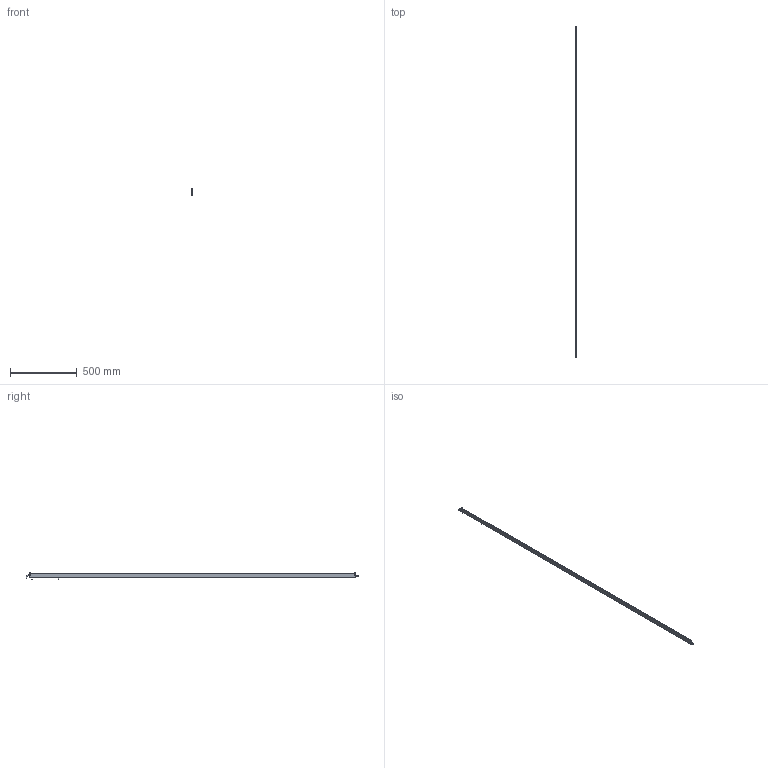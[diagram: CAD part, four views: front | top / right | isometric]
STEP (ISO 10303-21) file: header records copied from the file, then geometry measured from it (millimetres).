
FILE_DESCRIPTION (( 'STEP AP214' ), '1' );
FILE_NAME ('ILG-B-K1-2430mm.STEP', '2017-07-10T12:20:06', ( '' ), ( '' ), 'SwSTEP 2.0', 'SolidWorks 2016', '' );
FILE_SCHEMA (( 'AUTOMOTIVE_DESIGN' ));
Length unit declared in the file: millimetre
Products named in the file (1): ILG-B-K1-2430mm
Bounding box: 9 x 2478.25 x 46.21 mm (x, y, z)
Volume: 271334.8 mm3; surface area: 400783.4 mm2
Topology: 11 solids, 11 shells, 453 faces, 1150 edges, 724 vertices
Faces by surface type: plane 216, cylinder 152, cone 73, torus 12
Entity records: 18769 total; most frequent: CARTESIAN_POINT 2540, DIRECTION 2424, ORIENTED_EDGE 2284, EDGE_CURVE 1142, AXIS2_PLACEMENT_3D 896, VERTEX_POINT 724, LINE 632, VECTOR 632
